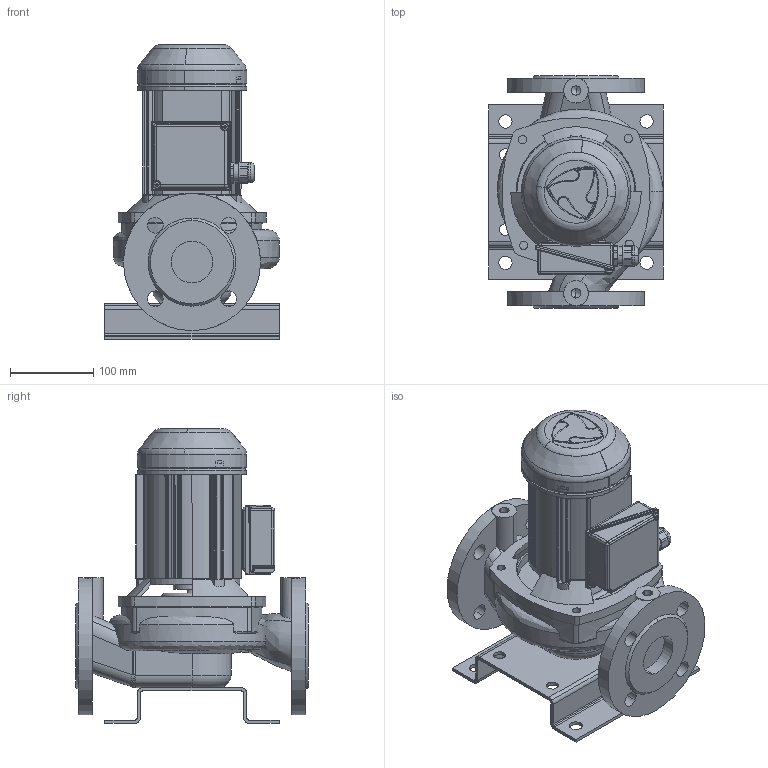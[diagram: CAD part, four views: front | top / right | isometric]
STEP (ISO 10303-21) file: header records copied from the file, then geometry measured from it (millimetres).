
FILE_DESCRIPTION(('STEP AP214'),'1');
FILE_NAME('export.stp','2018-05-29T06:07:04',(' '),(' '),'Spatial InterOp 3D',' ',' ');
FILE_SCHEMA(('AUTOMOTIVE_DESIGN { 1 0 10303 214 1 1 1 1 }'));
Length unit declared in the file: millimetre
Products named in the file (36): W_L50A4250_OP772; V_TLL50ABC; V_PPL50ABC; V_JALKA35973; R201432; R201415; ST_OP772; R201413; OP-772_rtp; R201409; Tumppi_F15_OP7; d15_D35_B11_6202; DIN_471-14x1; DIN_471-15x1; DIN_472-35x1.5; TSUOJA_OP_752; Tuuletin_pieni; Tkilpi_OP-7_tuule; DIN_7985-M4x10; kierretankoM5x150; DIN_EN_24032-M5; LJ6202; Kyt_kot_OP7; Kyt_kot_kansi_OP7; G44212; G43986; ILM20Tholkki; EK_OP7_F15; O-rengas_469x7; KA44M4; DIN_EN_24032-M4; DIN_7980-B4; rengasliitin_M4; Koura-aluslevy_M4
Assembly tree (64 placements, depth 4):
  W_L50A4250_OP772
    V_TLL50ABC
    V_PPL50ABC
    V_JALKA35973
    R201432
      R201415
      ST_OP772
      R201413
        OP-772_rtp
        R201409
        Tumppi_F15_OP7
      d15_D35_B11_6202  x2
      DIN_471-14x1
      DIN_471-15x1
      DIN_472-35x1.5
      TSUOJA_OP_752
      Tuuletin_pieni
      Tkilpi_OP-7_tuule
      DIN_7985-M4x10  x5
      kierretankoM5x150  x3
      DIN_EN_24032-M5  x3
      LJ6202
      Kyt_kot_OP7
      Kyt_kot_kansi_OP7
      G44212
      G43986
      ILM20Tholkki
      EK_OP7_F15
      O-rengas_469x7
      O-rengas_469x7
      KA44M4
      DIN_EN_24032-M4  x12
      DIN_7980-B4  x6
      rengasliitin_M4
      rengasliitin_M4  x5
      Koura-aluslevy_M4
Bounding box: 210 x 280 x 354.63 mm (x, y, z)
Volume: 4485679.1 mm3; surface area: 942081.1 mm2
Topology: 138 solids, 138 shells, 2973 faces, 7283 edges, 4620 vertices
Faces by surface type: plane 1393, cylinder 1064, cone 277, torus 188, sphere 34, bspline 17
Entity records: 109908 total; most frequent: CARTESIAN_POINT 20247, DIRECTION 13384, ORIENTED_EDGE 12130, EDGE_CURVE 6065, AXIS2_PLACEMENT_3D 5274, STYLED_ITEM 4198, PRESENTATION_STYLE_ASSIGNMENT 4198, COLOUR_RGB 4198
